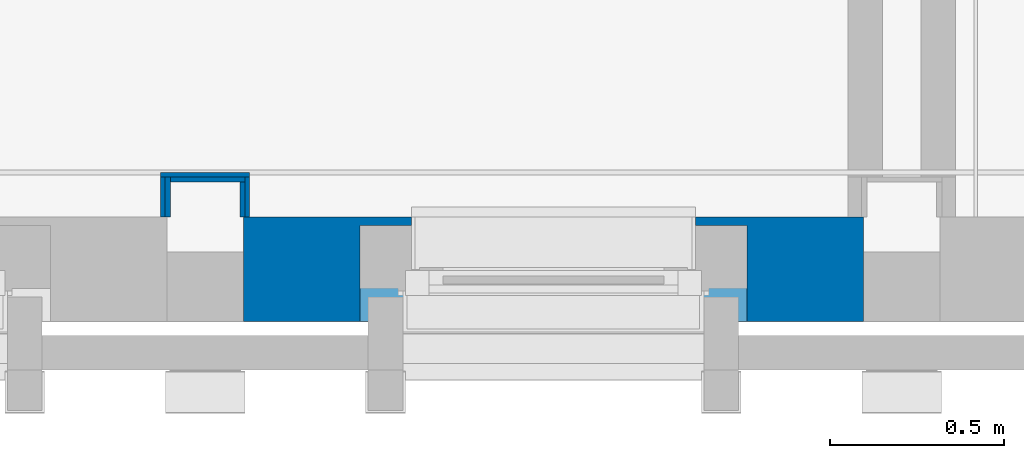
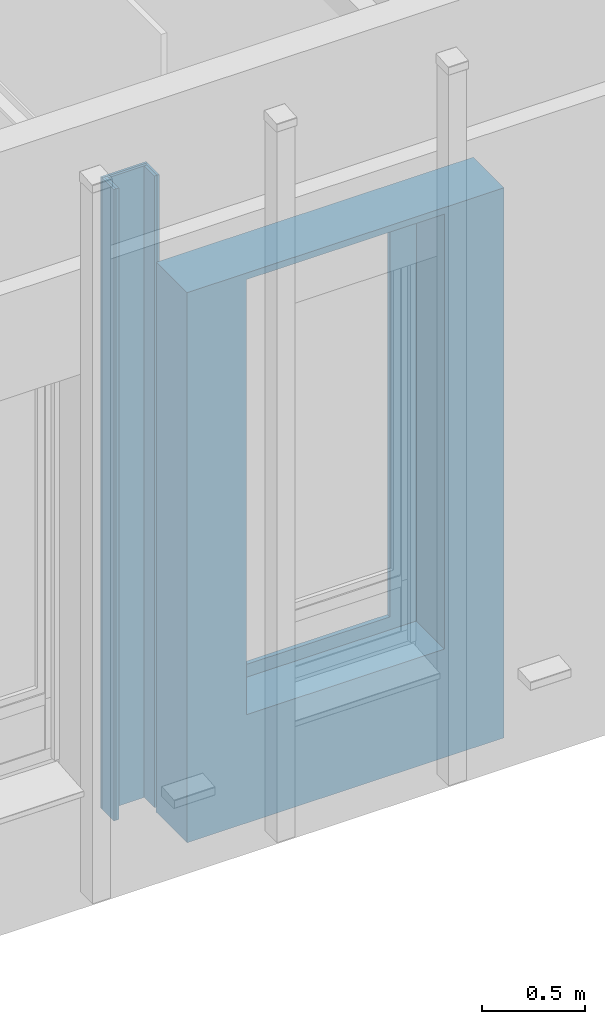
# One storey, part 30 of 118: 7 walls, 12 openings.
"""IFC2X3 building model written with IfcOpenShell, lengths in millimetres."""

from ifc_helpers import new_model, entity, si_unit, converted_unit, derived_unit, direction, frame, frame_2d, origin, place, context, subcontext, project, spatial, rectangle, extrude, faceted_brep, material, layer, layer_set, layer_usage, type_object, element, save


model = new_model("IFC2X3")

# Units and contexts
model_context = context("Model", 3, precision=0.01, world=origin(), true_north=direction((6.123031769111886e-17, 1.0)))
plan_context = context("Plan", 3, precision=0.01, world=origin(), true_north=direction((6.123031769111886e-17, 1.0)))
body_context = subcontext(model_context, "Body", "Model", "MODEL_VIEW")
ifc_project = project(units=[si_unit("LENGTHUNIT", "METRE", prefix="MILLI"), si_unit("AREAUNIT", "SQUARE_METRE"), si_unit("VOLUMEUNIT", "CUBIC_METRE"), converted_unit("PLANEANGLEUNIT", "DEGREE", entity("IfcRatioMeasure", 0.017453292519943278), si_unit("PLANEANGLEUNIT", "RADIAN"), dimensions=[0, 0, 0, 0, 0, 0, 0]), si_unit("MASSUNIT", "GRAM", prefix="KILO"), derived_unit("MASSDENSITYUNIT", [(si_unit("MASSUNIT", "GRAM", prefix="KILO"), 1), (si_unit("LENGTHUNIT", "METRE"), -3)]), derived_unit("IONCONCENTRATIONUNIT", [(si_unit("MASSUNIT", "GRAM", prefix="KILO"), 1), (si_unit("LENGTHUNIT", "METRE"), -3)]), derived_unit("MOMENTOFINERTIAUNIT", [(si_unit("LENGTHUNIT", "METRE"), 4)]), si_unit("TIMEUNIT", "SECOND"), si_unit("FREQUENCYUNIT", "HERTZ"), si_unit("THERMODYNAMICTEMPERATUREUNIT", "DEGREE_CELSIUS"), derived_unit("THERMALTRANSMITTANCEUNIT", [(si_unit("MASSUNIT", "GRAM", prefix="KILO"), 1), (si_unit("THERMODYNAMICTEMPERATUREUNIT", "KELVIN"), -1), (si_unit("TIMEUNIT", "SECOND"), -3)]), derived_unit("THERMALCONDUCTANCEUNIT", [(si_unit("MASSUNIT", "GRAM", prefix="KILO"), 1), (si_unit("THERMODYNAMICTEMPERATUREUNIT", "KELVIN"), -1), (si_unit("TIMEUNIT", "SECOND"), -3), (si_unit("LENGTHUNIT", "METRE"), 1)]), derived_unit("VOLUMETRICFLOWRATEUNIT", [(si_unit("LENGTHUNIT", "METRE"), 3), (si_unit("TIMEUNIT", "SECOND"), -1)]), derived_unit("MASSFLOWRATEUNIT", [(si_unit("MASSUNIT", "GRAM", prefix="KILO"), 1), (si_unit("TIMEUNIT", "SECOND"), -1)]), derived_unit("ROTATIONALFREQUENCYUNIT", [(si_unit("TIMEUNIT", "SECOND"), -1)]), si_unit("ELECTRICCURRENTUNIT", "AMPERE"), si_unit("ELECTRICVOLTAGEUNIT", "VOLT"), si_unit("POWERUNIT", "WATT"), si_unit("FORCEUNIT", "NEWTON", prefix="KILO"), si_unit("ILLUMINANCEUNIT", "LUX"), si_unit("LUMINOUSFLUXUNIT", "LUMEN"), si_unit("LUMINOUSINTENSITYUNIT", "CANDELA"), derived_unit("USERDEFINED", [(si_unit("MASSUNIT", "GRAM", prefix="KILO"), -1), (si_unit("LENGTHUNIT", "METRE"), -2), (si_unit("TIMEUNIT", "SECOND"), 3), (si_unit("LUMINOUSFLUXUNIT", "LUMEN"), 1)]), derived_unit("USERDEFINED", [(si_unit("MASSUNIT", "GRAM", prefix="KILO"), 1), (si_unit("TIMEUNIT", "SECOND"), -3), (si_unit("LENGTHUNIT", "METRE"), 3), (si_unit("ELECTRICCURRENTUNIT", "AMPERE"), -2)]), derived_unit("SOUNDPOWERUNIT", [(si_unit("MASSUNIT", "GRAM", prefix="KILO"), 1), (si_unit("TIMEUNIT", "SECOND"), -3), (si_unit("LENGTHUNIT", "METRE"), 2)]), derived_unit("SOUNDPRESSUREUNIT", [(si_unit("MASSUNIT", "GRAM", prefix="KILO"), 1), (si_unit("LENGTHUNIT", "METRE"), -1), (si_unit("TIMEUNIT", "SECOND"), -2)]), derived_unit("LINEARVELOCITYUNIT", [(si_unit("LENGTHUNIT", "METRE"), 1), (si_unit("TIMEUNIT", "SECOND"), -1)]), si_unit("PRESSUREUNIT", "PASCAL"), derived_unit("USERDEFINED", [(si_unit("MASSUNIT", "GRAM", prefix="KILO"), 1), (si_unit("LENGTHUNIT", "METRE"), -2), (si_unit("TIMEUNIT", "SECOND"), -2)]), derived_unit("LINEARFORCEUNIT", [(si_unit("MASSUNIT", "GRAM", prefix="KILO"), 1), (si_unit("TIMEUNIT", "SECOND"), -2)]), derived_unit("PLANARFORCEUNIT", [(si_unit("MASSUNIT", "GRAM", prefix="KILO"), 1), (si_unit("LENGTHUNIT", "METRE"), -1), (si_unit("TIMEUNIT", "SECOND"), -2)]), derived_unit("SPECIFICHEATCAPACITYUNIT", [(si_unit("THERMODYNAMICTEMPERATUREUNIT", "KELVIN"), -1), (si_unit("LENGTHUNIT", "METRE"), 2), (si_unit("TIMEUNIT", "SECOND"), -2)]), derived_unit("HEATINGVALUEUNIT", [(si_unit("LENGTHUNIT", "METRE"), 2), (si_unit("TIMEUNIT", "SECOND"), -2)]), derived_unit("VAPORPERMEABILITYUNIT", [(si_unit("LENGTHUNIT", "METRE"), -1), (si_unit("TIMEUNIT", "SECOND"), 1)]), derived_unit("DYNAMICVISCOSITYUNIT", [(si_unit("MASSUNIT", "GRAM", prefix="KILO"), 1), (si_unit("TIMEUNIT", "SECOND"), -1), (si_unit("LENGTHUNIT", "METRE"), -1)]), derived_unit("THERMALEXPANSIONCOEFFICIENTUNIT", [(si_unit("THERMODYNAMICTEMPERATUREUNIT", "KELVIN"), -1)]), derived_unit("MODULUSOFELASTICITYUNIT", [(si_unit("MASSUNIT", "GRAM", prefix="KILO"), 1), (si_unit("LENGTHUNIT", "METRE"), -1), (si_unit("TIMEUNIT", "SECOND"), -2)]), derived_unit("ISOTHERMALMOISTURECAPACITYUNIT", [(si_unit("LENGTHUNIT", "METRE"), 3), (si_unit("MASSUNIT", "GRAM", prefix="KILO"), -1)]), derived_unit("MOISTUREDIFFUSIVITYUNIT", [(si_unit("TIMEUNIT", "SECOND"), -1), (si_unit("LENGTHUNIT", "METRE"), 2)])], contexts=[model_context, plan_context])

# Site, building, storey
site_placement = place(None, origin())
site = spatial("IfcSite", under=ifc_project, at=site_placement, Name="Locatie", CompositionType="ELEMENT")
building_placement = place(site_placement, origin())
building = spatial("IfcBuilding", under=site, at=building_placement, Name="Bouwwerk", CompositionType="ELEMENT")
storey_placement = place(building_placement, frame((0.0, 0.0, 7800.0)))
storey = spatial("IfcBuildingStorey", under=building, at=storey_placement, Name="02 tweede verdieping", CompositionType="ELEMENT", Elevation=7800.000000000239)

# Wall, openings
ifc_material_1 = material(Name="n7_isolatie_glaswol")
ifc_layer_1 = layer(ifc_material_1, 30.0)
ifc_layer_2 = layer(ifc_material_1, 245.0)
ifc_material_2 = material(Name="i4_multiplex")
ifc_layer_3 = layer(ifc_material_2, 12.0)
ifc_material_3 = material(Name="f7_gipsvezel")
ifc_layer_4 = layer(ifc_material_3, 13.000000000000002)
ifc_layer_set_1 = layer_set([ifc_layer_1, ifc_layer_2, ifc_layer_3, ifc_layer_4], Name="Basic Wall:NLRS_22_WA_HSB bispouw 30-245-12-13 glaswol_gen_ISR")
ifc_layer_usage_1 = layer_usage(ifc_layer_set_1, "AXIS2", "NEGATIVE", 150.0)
wall_type_1 = type_object("IfcWallType", Name="Basic Wall:NLRS_22_WA_HSB bispouw 30-245-12-13 glaswol_gen_ISR", PredefinedType="STANDARD", material=ifc_layer_set_1)
wall_1_placement = place(storey_placement, frame((24190.0, 9850.0, -30.0), z_axis=(0.0, 0.0, 1.0), x_axis=(-1.0, 0.0, 0.0)))
wall_1 = element("IfcWallStandardCase", 1, at=wall_1_placement, inside=storey, type_object=wall_type_1, material=ifc_layer_usage_1, Name="Basic Wall:NLRS_22_WA_HSB bispouw 30-245-12-13 glaswol_gen_ISR", ObjectType="Basic Wall:NLRS_22_WA_HSB bispouw 30-245-12-13 glaswol_gen_ISR", context=body_context, shape_type="SweptSolid", body=[
    extrude(rectangle(XDim=1779.9999999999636, YDim=300.0000000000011, at=frame_2d((889.9999999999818, 0.0), x_axis=(-1.0, 0.0))), origin(), (0.0, 0.0, 1.0), 3265.9999999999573),
])
opening_1_placement = place(wall_1_placement, frame((-2554.0, 290.0, 633.0)))
element("IfcOpeningElement", 2, at=opening_1_placement, cuts=wall_1, Name="Basic Wall:NLRS_22_WA_HSB bispouw 30-245-12-13 glaswol_gen_ISR", ObjectType="Opening", context=body_context, shape_type="Brep", body=[
    faceted_brep([(-24.0, -100.0, 2472.0), (-103.0, -100.0, 2472.0), (-103.0, -100.0, 42.0), (-1009.0, -100.0, 42.0), (-1009.0, -100.0, 2472.0), (-1088.0, -100.0, 2472.0), (-1088.0, -100.0, 0.0), (-24.0, -100.0, 0.0), (-1088.0, 0.0, 2472.0), (-24.0, 0.0, 2472.0), (-24.0, 0.0, 0.0), (-1088.0, 0.0, 0.0), (-1112.0, -415.0, 2594.0), (-1112.0, -415.0, 11.0), (0.0, -415.0, 11.0), (0.0, -415.0, 2594.0), (-964.0, -415.0, 2443.0), (-148.0, -415.0, 2443.0), (-148.0, -415.0, 87.0), (-964.0, -415.0, 87.0), (-1112.0, -140.0, 2594.0), (0.0, -140.0, 2594.0), (0.0, -140.0, 11.0), (-1112.0, -140.0, 11.0), (-1009.0, -140.0, 42.0), (-103.0, -140.0, 42.0), (-103.0, -140.0, 2508.0), (-1009.0, -140.0, 2508.0), (-103.0, -100.0, 2508.0), (-1009.0, -100.0, 2508.0), (-964.0, -615.0, 2443.0), (-964.0, -615.0, 87.0), (-148.0, -615.0, 87.0), (-148.0, -615.0, 2443.0)], [[[0, 1, 2, 3, 4, 5, 6, 7]], [[8, 9, 10, 11]], [[5, 8, 11, 6]], [[6, 11, 10, 7]], [[7, 10, 9, 0]], [[8, 5, 4, 1, 0, 9]], [[12, 13, 14, 15], [16, 17, 18, 19]], [[20, 21, 22, 23], [24, 25, 26, 27]], [[12, 20, 23, 13]], [[13, 23, 22, 14]], [[14, 22, 21, 15]], [[15, 21, 20, 12]], [[28, 1, 4, 29]], [[24, 27, 29, 4, 3]], [[3, 2, 25, 24]], [[2, 1, 28, 26, 25]], [[29, 27, 26, 28]], [[30, 31, 32, 33]], [[30, 16, 19, 31]], [[31, 19, 18, 32]], [[32, 18, 17, 33]], [[33, 17, 16, 30]]]),
])
opening_2_placement = place(wall_1_placement, frame((-554.0, 290.0, 633.0)))
element("IfcOpeningElement", 3, at=opening_2_placement, cuts=wall_1, Name="Basic Wall:NLRS_22_WA_HSB bispouw 30-245-12-13 glaswol_gen_ISR", ObjectType="Opening", context=body_context, shape_type="Brep", body=[
    faceted_brep([(-24.0, -100.0, 2472.0), (-103.0, -100.0, 2472.0), (-103.0, -100.0, 42.0), (-1009.0, -100.0, 42.0), (-1009.0, -100.0, 2472.0), (-1088.0, -100.0, 2472.0), (-1088.0, -100.0, 0.0), (-24.0, -100.0, 0.0), (-1088.0, 0.0, 2472.0), (-24.0, 0.0, 2472.0), (-24.0, 0.0, 0.0), (-1088.0, 0.0, 0.0), (-1112.0, -415.0, 2594.0), (-1112.0, -415.0, 11.0), (0.0, -415.0, 11.0), (0.0, -415.0, 2594.0), (-964.0, -415.0, 2443.0), (-148.0, -415.0, 2443.0), (-148.0, -415.0, 87.0), (-964.0, -415.0, 87.0), (-1112.0, -140.0, 2594.0), (0.0, -140.0, 2594.0), (0.0, -140.0, 11.0), (-1112.0, -140.0, 11.0), (-1009.0, -140.0, 42.0), (-103.0, -140.0, 42.0), (-103.0, -140.0, 2508.0), (-1009.0, -140.0, 2508.0), (-103.0, -100.0, 2508.0), (-1009.0, -100.0, 2508.0), (-964.0, -615.0, 2443.0), (-964.0, -615.0, 87.0), (-148.0, -615.0, 87.0), (-148.0, -615.0, 2443.0)], [[[0, 1, 2, 3, 4, 5, 6, 7]], [[8, 9, 10, 11]], [[5, 8, 11, 6]], [[6, 11, 10, 7]], [[7, 10, 9, 0]], [[8, 5, 4, 1, 0, 9]], [[12, 13, 14, 15], [16, 17, 18, 19]], [[20, 21, 22, 23], [24, 25, 26, 27]], [[12, 20, 23, 13]], [[13, 23, 22, 14]], [[14, 22, 21, 15]], [[15, 21, 20, 12]], [[28, 1, 4, 29]], [[24, 27, 29, 4, 3]], [[3, 2, 25, 24]], [[2, 1, 28, 26, 25]], [[29, 27, 26, 28]], [[30, 31, 32, 33]], [[30, 16, 19, 31]], [[31, 19, 18, 32]], [[32, 18, 17, 33]], [[33, 17, 16, 30]]]),
])
opening_3_placement = place(wall_1_placement, frame((-8554.0, 290.0, 633.0)))
element("IfcOpeningElement", 4, at=opening_3_placement, cuts=wall_1, Name="Basic Wall:NLRS_22_WA_HSB bispouw 30-245-12-13 glaswol_gen_ISR", ObjectType="Opening", context=body_context, shape_type="Brep", body=[
    faceted_brep([(-24.0, -100.0, 2472.0), (-103.0, -100.0, 2472.0), (-103.0, -100.0, 42.0), (-1009.0, -100.0, 42.0), (-1009.0, -100.0, 2472.0), (-1088.0, -100.0, 2472.0), (-1088.0, -100.0, 0.0), (-24.0, -100.0, 0.0), (-1088.0, 0.0, 2472.0), (-24.0, 0.0, 2472.0), (-24.0, 0.0, 0.0), (-1088.0, 0.0, 0.0), (-1112.0, -415.0, 2594.0), (-1112.0, -415.0, 11.0), (0.0, -415.0, 11.0), (0.0, -415.0, 2594.0), (-964.0, -415.0, 2443.0), (-148.0, -415.0, 2443.0), (-148.0, -415.0, 87.0), (-964.0, -415.0, 87.0), (-1112.0, -140.0, 2594.0), (0.0, -140.0, 2594.0), (0.0, -140.0, 11.0), (-1112.0, -140.0, 11.0), (-1009.0, -140.0, 42.0), (-103.0, -140.0, 42.0), (-103.0, -140.0, 2508.0), (-1009.0, -140.0, 2508.0), (-103.0, -100.0, 2508.0), (-1009.0, -100.0, 2508.0), (-964.0, -615.0, 2443.0), (-964.0, -615.0, 87.0), (-148.0, -615.0, 87.0), (-148.0, -615.0, 2443.0)], [[[0, 1, 2, 3, 4, 5, 6, 7]], [[8, 9, 10, 11]], [[5, 8, 11, 6]], [[6, 11, 10, 7]], [[7, 10, 9, 0]], [[8, 5, 4, 1, 0, 9]], [[12, 13, 14, 15], [16, 17, 18, 19]], [[20, 21, 22, 23], [24, 25, 26, 27]], [[12, 20, 23, 13]], [[13, 23, 22, 14]], [[14, 22, 21, 15]], [[15, 21, 20, 12]], [[28, 1, 4, 29]], [[24, 27, 29, 4, 3]], [[3, 2, 25, 24]], [[2, 1, 28, 26, 25]], [[29, 27, 26, 28]], [[30, 31, 32, 33]], [[30, 16, 19, 31]], [[31, 19, 18, 32]], [[32, 18, 17, 33]], [[33, 17, 16, 30]]]),
])
opening_4_placement = place(wall_1_placement, frame((-6554.0, 290.0, 633.0)))
element("IfcOpeningElement", 5, at=opening_4_placement, cuts=wall_1, Name="Basic Wall:NLRS_22_WA_HSB bispouw 30-245-12-13 glaswol_gen_ISR", ObjectType="Opening", context=body_context, shape_type="Brep", body=[
    faceted_brep([(-24.0, -100.0, 2472.0), (-103.0, -100.0, 2472.0), (-103.0, -100.0, 42.0), (-1009.0, -100.0, 42.0), (-1009.0, -100.0, 2472.0), (-1088.0, -100.0, 2472.0), (-1088.0, -100.0, 0.0), (-24.0, -100.0, 0.0), (-1088.0, 0.0, 2472.0), (-24.0, 0.0, 2472.0), (-24.0, 0.0, 0.0), (-1088.0, 0.0, 0.0), (-1112.0, -415.0, 2594.0), (-1112.0, -415.0, 11.0), (0.0, -415.0, 11.0), (0.0, -415.0, 2594.0), (-964.0, -415.0, 2443.0), (-148.0, -415.0, 2443.0), (-148.0, -415.0, 87.0), (-964.0, -415.0, 87.0), (-1112.0, -140.0, 2594.0), (0.0, -140.0, 2594.0), (0.0, -140.0, 11.0), (-1112.0, -140.0, 11.0), (-1009.0, -140.0, 42.0), (-103.0, -140.0, 42.0), (-103.0, -140.0, 2508.0), (-1009.0, -140.0, 2508.0), (-103.0, -100.0, 2508.0), (-1009.0, -100.0, 2508.0), (-964.0, -615.0, 2443.0), (-964.0, -615.0, 87.0), (-148.0, -615.0, 87.0), (-148.0, -615.0, 2443.0)], [[[0, 1, 2, 3, 4, 5, 6, 7]], [[8, 9, 10, 11]], [[5, 8, 11, 6]], [[6, 11, 10, 7]], [[7, 10, 9, 0]], [[8, 5, 4, 1, 0, 9]], [[12, 13, 14, 15], [16, 17, 18, 19]], [[20, 21, 22, 23], [24, 25, 26, 27]], [[12, 20, 23, 13]], [[13, 23, 22, 14]], [[14, 22, 21, 15]], [[15, 21, 20, 12]], [[28, 1, 4, 29]], [[24, 27, 29, 4, 3]], [[3, 2, 25, 24]], [[2, 1, 28, 26, 25]], [[29, 27, 26, 28]], [[30, 31, 32, 33]], [[30, 16, 19, 31]], [[31, 19, 18, 32]], [[32, 18, 17, 33]], [[33, 17, 16, 30]]]),
])
opening_5_placement = place(wall_1_placement, frame((-4554.0, 290.0, 633.0)))
element("IfcOpeningElement", 6, at=opening_5_placement, cuts=wall_1, Name="Basic Wall:NLRS_22_WA_HSB bispouw 30-245-12-13 glaswol_gen_ISR", ObjectType="Opening", context=body_context, shape_type="Brep", body=[
    faceted_brep([(-24.0, -100.0, 2472.0), (-103.0, -100.0, 2472.0), (-103.0, -100.0, 42.0), (-1009.0, -100.0, 42.0), (-1009.0, -100.0, 2472.0), (-1088.0, -100.0, 2472.0), (-1088.0, -100.0, 0.0), (-24.0, -100.0, 0.0), (-1088.0, 0.0, 2472.0), (-24.0, 0.0, 2472.0), (-24.0, 0.0, 0.0), (-1088.0, 0.0, 0.0), (-1112.0, -415.0, 2594.0), (-1112.0, -415.0, 11.0), (0.0, -415.0, 11.0), (0.0, -415.0, 2594.0), (-964.0, -415.0, 2443.0), (-148.0, -415.0, 2443.0), (-148.0, -415.0, 87.0), (-964.0, -415.0, 87.0), (-1112.0, -140.0, 2594.0), (0.0, -140.0, 2594.0), (0.0, -140.0, 11.0), (-1112.0, -140.0, 11.0), (-1009.0, -140.0, 42.0), (-103.0, -140.0, 42.0), (-103.0, -140.0, 2508.0), (-1009.0, -140.0, 2508.0), (-103.0, -100.0, 2508.0), (-1009.0, -100.0, 2508.0), (-964.0, -615.0, 2443.0), (-964.0, -615.0, 87.0), (-148.0, -615.0, 87.0), (-148.0, -615.0, 2443.0)], [[[0, 1, 2, 3, 4, 5, 6, 7]], [[8, 9, 10, 11]], [[5, 8, 11, 6]], [[6, 11, 10, 7]], [[7, 10, 9, 0]], [[8, 5, 4, 1, 0, 9]], [[12, 13, 14, 15], [16, 17, 18, 19]], [[20, 21, 22, 23], [24, 25, 26, 27]], [[12, 20, 23, 13]], [[13, 23, 22, 14]], [[14, 22, 21, 15]], [[15, 21, 20, 12]], [[28, 1, 4, 29]], [[24, 27, 29, 4, 3]], [[3, 2, 25, 24]], [[2, 1, 28, 26, 25]], [[29, 27, 26, 28]], [[30, 31, 32, 33]], [[30, 16, 19, 31]], [[31, 19, 18, 32]], [[32, 18, 17, 33]], [[33, 17, 16, 30]]]),
])
opening_6_placement = place(wall_1_placement, frame((3446.0, 290.0, 633.0)))
element("IfcOpeningElement", 7, at=opening_6_placement, cuts=wall_1, Name="Basic Wall:NLRS_22_WA_HSB bispouw 30-245-12-13 glaswol_gen_ISR", ObjectType="Opening", context=body_context, shape_type="Brep", body=[
    faceted_brep([(-24.0, -100.0, 2472.0), (-103.0, -100.0, 2472.0), (-103.0, -100.0, 42.0), (-1009.0, -100.0, 42.0), (-1009.0, -100.0, 2472.0), (-1088.0, -100.0, 2472.0), (-1088.0, -100.0, 0.0), (-24.0, -100.0, 0.0), (-1088.0, 0.0, 2472.0), (-24.0, 0.0, 2472.0), (-24.0, 0.0, 0.0), (-1088.0, 0.0, 0.0), (-1112.0, -415.0, 2594.0), (-1112.0, -415.0, 11.0), (0.0, -415.0, 11.0), (0.0, -415.0, 2594.0), (-964.0, -415.0, 2443.0), (-148.0, -415.0, 2443.0), (-148.0, -415.0, 87.0), (-964.0, -415.0, 87.0), (-1112.0, -140.0, 2594.0), (0.0, -140.0, 2594.0), (0.0, -140.0, 11.0), (-1112.0, -140.0, 11.0), (-1009.0, -140.0, 42.0), (-103.0, -140.0, 42.0), (-103.0, -140.0, 2508.0), (-1009.0, -140.0, 2508.0), (-103.0, -100.0, 2508.0), (-1009.0, -100.0, 2508.0), (-964.0, -615.0, 2443.0), (-964.0, -615.0, 87.0), (-148.0, -615.0, 87.0), (-148.0, -615.0, 2443.0)], [[[0, 1, 2, 3, 4, 5, 6, 7]], [[8, 9, 10, 11]], [[5, 8, 11, 6]], [[6, 11, 10, 7]], [[7, 10, 9, 0]], [[8, 5, 4, 1, 0, 9]], [[12, 13, 14, 15], [16, 17, 18, 19]], [[20, 21, 22, 23], [24, 25, 26, 27]], [[12, 20, 23, 13]], [[13, 23, 22, 14]], [[14, 22, 21, 15]], [[15, 21, 20, 12]], [[28, 1, 4, 29]], [[24, 27, 29, 4, 3]], [[3, 2, 25, 24]], [[2, 1, 28, 26, 25]], [[29, 27, 26, 28]], [[30, 31, 32, 33]], [[30, 16, 19, 31]], [[31, 19, 18, 32]], [[32, 18, 17, 33]], [[33, 17, 16, 30]]]),
])
opening_7_placement = place(wall_1_placement, frame((5446.0, 290.0, 633.0)))
element("IfcOpeningElement", 8, at=opening_7_placement, cuts=wall_1, Name="Basic Wall:NLRS_22_WA_HSB bispouw 30-245-12-13 glaswol_gen_ISR", ObjectType="Opening", context=body_context, shape_type="Brep", body=[
    faceted_brep([(-24.0, -100.0, 2472.0), (-103.0, -100.0, 2472.0), (-103.0, -100.0, 42.0), (-1009.0, -100.0, 42.0), (-1009.0, -100.0, 2472.0), (-1088.0, -100.0, 2472.0), (-1088.0, -100.0, 0.0), (-24.0, -100.0, 0.0), (-1088.0, 0.0, 2472.0), (-24.0, 0.0, 2472.0), (-24.0, 0.0, 0.0), (-1088.0, 0.0, 0.0), (-1112.0, -415.0, 2594.0), (-1112.0, -415.0, 11.0), (0.0, -415.0, 11.0), (0.0, -415.0, 2594.0), (-964.0, -415.0, 2443.0), (-148.0, -415.0, 2443.0), (-148.0, -415.0, 87.0), (-964.0, -415.0, 87.0), (-1112.0, -140.0, 2594.0), (0.0, -140.0, 2594.0), (0.0, -140.0, 11.0), (-1112.0, -140.0, 11.0), (-1009.0, -140.0, 42.0), (-103.0, -140.0, 42.0), (-103.0, -140.0, 2508.0), (-1009.0, -140.0, 2508.0), (-103.0, -100.0, 2508.0), (-1009.0, -100.0, 2508.0), (-964.0, -615.0, 2443.0), (-964.0, -615.0, 87.0), (-148.0, -615.0, 87.0), (-148.0, -615.0, 2443.0)], [[[0, 1, 2, 3, 4, 5, 6, 7]], [[8, 9, 10, 11]], [[5, 8, 11, 6]], [[6, 11, 10, 7]], [[7, 10, 9, 0]], [[8, 5, 4, 1, 0, 9]], [[12, 13, 14, 15], [16, 17, 18, 19]], [[20, 21, 22, 23], [24, 25, 26, 27]], [[12, 20, 23, 13]], [[13, 23, 22, 14]], [[14, 22, 21, 15]], [[15, 21, 20, 12]], [[28, 1, 4, 29]], [[24, 27, 29, 4, 3]], [[3, 2, 25, 24]], [[2, 1, 28, 26, 25]], [[29, 27, 26, 28]], [[30, 31, 32, 33]], [[30, 16, 19, 31]], [[31, 19, 18, 32]], [[32, 18, 17, 33]], [[33, 17, 16, 30]]]),
])
opening_8_placement = place(wall_1_placement, frame((7446.0, 290.0, 633.0)))
element("IfcOpeningElement", 9, at=opening_8_placement, cuts=wall_1, Name="Basic Wall:NLRS_22_WA_HSB bispouw 30-245-12-13 glaswol_gen_ISR", ObjectType="Opening", context=body_context, shape_type="Brep", body=[
    faceted_brep([(-24.0, -100.0, 2472.0), (-103.0, -100.0, 2472.0), (-103.0, -100.0, 42.0), (-1009.0, -100.0, 42.0), (-1009.0, -100.0, 2472.0), (-1088.0, -100.0, 2472.0), (-1088.0, -100.0, 0.0), (-24.0, -100.0, 0.0), (-1088.0, 0.0, 2472.0), (-24.0, 0.0, 2472.0), (-24.0, 0.0, 0.0), (-1088.0, 0.0, 0.0), (-1112.0, -415.0, 2594.0), (-1112.0, -415.0, 11.0), (0.0, -415.0, 11.0), (0.0, -415.0, 2594.0), (-964.0, -415.0, 2443.0), (-148.0, -415.0, 2443.0), (-148.0, -415.0, 87.0), (-964.0, -415.0, 87.0), (-1112.0, -140.0, 2594.0), (0.0, -140.0, 2594.0), (0.0, -140.0, 11.0), (-1112.0, -140.0, 11.0), (-1009.0, -140.0, 42.0), (-103.0, -140.0, 42.0), (-103.0, -140.0, 2508.0), (-1009.0, -140.0, 2508.0), (-103.0, -100.0, 2508.0), (-1009.0, -100.0, 2508.0), (-964.0, -615.0, 2443.0), (-964.0, -615.0, 87.0), (-148.0, -615.0, 87.0), (-148.0, -615.0, 2443.0)], [[[0, 1, 2, 3, 4, 5, 6, 7]], [[8, 9, 10, 11]], [[5, 8, 11, 6]], [[6, 11, 10, 7]], [[7, 10, 9, 0]], [[8, 5, 4, 1, 0, 9]], [[12, 13, 14, 15], [16, 17, 18, 19]], [[20, 21, 22, 23], [24, 25, 26, 27]], [[12, 20, 23, 13]], [[13, 23, 22, 14]], [[14, 22, 21, 15]], [[15, 21, 20, 12]], [[28, 1, 4, 29]], [[24, 27, 29, 4, 3]], [[3, 2, 25, 24]], [[2, 1, 28, 26, 25]], [[29, 27, 26, 28]], [[30, 31, 32, 33]], [[30, 16, 19, 31]], [[31, 19, 18, 32]], [[32, 18, 17, 33]], [[33, 17, 16, 30]]]),
])
opening_9_placement = place(wall_1_placement, frame((9446.0, 290.0, 633.0)))
element("IfcOpeningElement", 10, at=opening_9_placement, cuts=wall_1, Name="Basic Wall:NLRS_22_WA_HSB bispouw 30-245-12-13 glaswol_gen_ISR", ObjectType="Opening", context=body_context, shape_type="Brep", body=[
    faceted_brep([(-24.0, -100.0, 2472.0), (-103.0, -100.0, 2472.0), (-103.0, -100.0, 42.0), (-1009.0, -100.0, 42.0), (-1009.0, -100.0, 2472.0), (-1088.0, -100.0, 2472.0), (-1088.0, -100.0, 0.0), (-24.0, -100.0, 0.0), (-1088.0, 0.0, 2472.0), (-24.0, 0.0, 2472.0), (-24.0, 0.0, 0.0), (-1088.0, 0.0, 0.0), (-1112.0, -415.0, 2594.0), (-1112.0, -415.0, 11.0), (0.0, -415.0, 11.0), (0.0, -415.0, 2594.0), (-964.0, -415.0, 2443.0), (-148.0, -415.0, 2443.0), (-148.0, -415.0, 87.0), (-964.0, -415.0, 87.0), (-1112.0, -140.0, 2594.0), (0.0, -140.0, 2594.0), (0.0, -140.0, 11.0), (-1112.0, -140.0, 11.0), (-1009.0, -140.0, 42.0), (-103.0, -140.0, 42.0), (-103.0, -140.0, 2508.0), (-1009.0, -140.0, 2508.0), (-103.0, -100.0, 2508.0), (-1009.0, -100.0, 2508.0), (-964.0, -615.0, 2443.0), (-964.0, -615.0, 87.0), (-148.0, -615.0, 87.0), (-148.0, -615.0, 2443.0)], [[[0, 1, 2, 3, 4, 5, 6, 7]], [[8, 9, 10, 11]], [[5, 8, 11, 6]], [[6, 11, 10, 7]], [[7, 10, 9, 0]], [[8, 5, 4, 1, 0, 9]], [[12, 13, 14, 15], [16, 17, 18, 19]], [[20, 21, 22, 23], [24, 25, 26, 27]], [[12, 20, 23, 13]], [[13, 23, 22, 14]], [[14, 22, 21, 15]], [[15, 21, 20, 12]], [[28, 1, 4, 29]], [[24, 27, 29, 4, 3]], [[3, 2, 25, 24]], [[2, 1, 28, 26, 25]], [[29, 27, 26, 28]], [[30, 31, 32, 33]], [[30, 16, 19, 31]], [[31, 19, 18, 32]], [[32, 18, 17, 33]], [[33, 17, 16, 30]]]),
])
opening_10_placement = place(wall_1_placement, frame((11446.0, 290.0, 633.0)))
element("IfcOpeningElement", 11, at=opening_10_placement, cuts=wall_1, Name="Basic Wall:NLRS_22_WA_HSB bispouw 30-245-12-13 glaswol_gen_ISR", ObjectType="Opening", context=body_context, shape_type="Brep", body=[
    faceted_brep([(-24.0, -100.0, 2472.0), (-103.0, -100.0, 2472.0), (-103.0, -100.0, 42.0), (-1009.0, -100.0, 42.0), (-1009.0, -100.0, 2472.0), (-1088.0, -100.0, 2472.0), (-1088.0, -100.0, 0.0), (-24.0, -100.0, 0.0), (-1088.0, 0.0, 2472.0), (-24.0, 0.0, 2472.0), (-24.0, 0.0, 0.0), (-1088.0, 0.0, 0.0), (-1112.0, -415.0, 2594.0), (-1112.0, -415.0, 11.0), (0.0, -415.0, 11.0), (0.0, -415.0, 2594.0), (-964.0, -415.0, 2443.0), (-148.0, -415.0, 2443.0), (-148.0, -415.0, 87.0), (-964.0, -415.0, 87.0), (-1112.0, -140.0, 2594.0), (0.0, -140.0, 2594.0), (0.0, -140.0, 11.0), (-1112.0, -140.0, 11.0), (-1009.0, -140.0, 42.0), (-103.0, -140.0, 42.0), (-103.0, -140.0, 2508.0), (-1009.0, -140.0, 2508.0), (-103.0, -100.0, 2508.0), (-1009.0, -100.0, 2508.0), (-964.0, -615.0, 2443.0), (-964.0, -615.0, 87.0), (-148.0, -615.0, 87.0), (-148.0, -615.0, 2443.0)], [[[0, 1, 2, 3, 4, 5, 6, 7]], [[8, 9, 10, 11]], [[5, 8, 11, 6]], [[6, 11, 10, 7]], [[7, 10, 9, 0]], [[8, 5, 4, 1, 0, 9]], [[12, 13, 14, 15], [16, 17, 18, 19]], [[20, 21, 22, 23], [24, 25, 26, 27]], [[12, 20, 23, 13]], [[13, 23, 22, 14]], [[14, 22, 21, 15]], [[15, 21, 20, 12]], [[28, 1, 4, 29]], [[24, 27, 29, 4, 3]], [[3, 2, 25, 24]], [[2, 1, 28, 26, 25]], [[29, 27, 26, 28]], [[30, 31, 32, 33]], [[30, 16, 19, 31]], [[31, 19, 18, 32]], [[32, 18, 17, 33]], [[33, 17, 16, 30]]]),
])
opening_11_placement = place(wall_1_placement, frame((13446.0, 290.0, 633.0)))
element("IfcOpeningElement", 12, at=opening_11_placement, cuts=wall_1, Name="Basic Wall:NLRS_22_WA_HSB bispouw 30-245-12-13 glaswol_gen_ISR", ObjectType="Opening", context=body_context, shape_type="Brep", body=[
    faceted_brep([(-24.0, -100.0, 2472.0), (-103.0, -100.0, 2472.0), (-103.0, -100.0, 42.0), (-1009.0, -100.0, 42.0), (-1009.0, -100.0, 2472.0), (-1088.0, -100.0, 2472.0), (-1088.0, -100.0, 0.0), (-24.0, -100.0, 0.0), (-1088.0, 0.0, 2472.0), (-24.0, 0.0, 2472.0), (-24.0, 0.0, 0.0), (-1088.0, 0.0, 0.0), (-1112.0, -415.0, 2594.0), (-1112.0, -415.0, 11.0), (0.0, -415.0, 11.0), (0.0, -415.0, 2594.0), (-964.0, -415.0, 2443.0), (-148.0, -415.0, 2443.0), (-148.0, -415.0, 87.0), (-964.0, -415.0, 87.0), (-1112.0, -140.0, 2594.0), (0.0, -140.0, 2594.0), (0.0, -140.0, 11.0), (-1112.0, -140.0, 11.0), (-1009.0, -140.0, 42.0), (-103.0, -140.0, 42.0), (-103.0, -140.0, 2508.0), (-1009.0, -140.0, 2508.0), (-103.0, -100.0, 2508.0), (-1009.0, -100.0, 2508.0), (-964.0, -615.0, 2443.0), (-964.0, -615.0, 87.0), (-148.0, -615.0, 87.0), (-148.0, -615.0, 2443.0)], [[[0, 1, 2, 3, 4, 5, 6, 7]], [[8, 9, 10, 11]], [[5, 8, 11, 6]], [[6, 11, 10, 7]], [[7, 10, 9, 0]], [[8, 5, 4, 1, 0, 9]], [[12, 13, 14, 15], [16, 17, 18, 19]], [[20, 21, 22, 23], [24, 25, 26, 27]], [[12, 20, 23, 13]], [[13, 23, 22, 14]], [[14, 22, 21, 15]], [[15, 21, 20, 12]], [[28, 1, 4, 29]], [[24, 27, 29, 4, 3]], [[3, 2, 25, 24]], [[2, 1, 28, 26, 25]], [[29, 27, 26, 28]], [[30, 31, 32, 33]], [[30, 16, 19, 31]], [[31, 19, 18, 32]], [[32, 18, 17, 33]], [[33, 17, 16, 30]]]),
])
opening_12_placement = place(wall_1_placement, frame((1446.0, 290.0, 633.0), z_axis=(0.0, 0.0, 1.0), x_axis=(-1.0, 0.0, 0.0)))
element("IfcOpeningElement", 13, at=opening_12_placement, cuts=wall_1, Name="Basic Wall:NLRS_22_WA_HSB bispouw 30-245-12-13 glaswol_gen_ISR", ObjectType="Opening", context=body_context, shape_type="Brep", body=[
    faceted_brep([(24.0, 100.0, 2472.0), (103.0, 100.0, 2472.0), (103.0, 100.0, 42.0), (1009.0, 100.0, 42.0), (1009.0, 100.0, 2472.0), (1088.0, 100.0, 2472.0), (1088.0, 100.0, 0.0), (24.0, 100.0, 0.0), (1088.0, 0.0, 2472.0), (24.0, 0.0, 2472.0), (24.0, 0.0, 0.0), (1088.0, 0.0, 0.0), (1112.0, 415.0, 2594.0), (1112.0, 415.0, 11.0), (0.0, 415.0, 11.0), (0.0, 415.0, 2594.0), (964.0, 415.0, 2443.0), (148.0, 415.0, 2443.0), (148.0, 415.0, 87.0), (964.0, 415.0, 87.0), (1112.0, 140.0, 2594.0), (0.0, 140.0, 2594.0), (0.0, 140.0, 11.0), (1112.0, 140.0, 11.0), (1009.0, 140.0, 42.0), (103.0, 140.0, 42.0), (103.0, 140.0, 2508.0), (1009.0, 140.0, 2508.0), (103.0, 100.0, 2508.0), (1009.0, 100.0, 2508.0), (964.0, 615.0, 2443.0), (964.0, 615.0, 87.0), (148.0, 615.0, 87.0), (148.0, 615.0, 2443.0)], [[[0, 1, 2, 3, 4, 5, 6, 7]], [[8, 9, 10, 11]], [[5, 8, 11, 6]], [[6, 11, 10, 7]], [[7, 10, 9, 0]], [[8, 5, 4, 1, 0, 9]], [[12, 13, 14, 15], [16, 17, 18, 19]], [[20, 21, 22, 23], [24, 25, 26, 27]], [[12, 20, 23, 13]], [[13, 23, 22, 14]], [[14, 22, 21, 15]], [[15, 21, 20, 12]], [[28, 1, 4, 29]], [[24, 27, 29, 4, 3]], [[3, 2, 25, 24]], [[2, 1, 28, 26, 25]], [[29, 27, 26, 28]], [[30, 31, 32, 33]], [[30, 16, 19, 31]], [[31, 19, 18, 32]], [[32, 18, 17, 33]], [[33, 17, 16, 30]]]),
])

# Walls
ifc_layer_5 = layer(ifc_material_3, 13.000000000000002)
ifc_layer_set_2 = layer_set([ifc_layer_5], Name="Basic Wall:NLRS_41_WA_gips 13_gen_ISR")
ifc_layer_usage_2 = layer_usage(ifc_layer_set_2, "AXIS2", "NEGATIVE", 6.500000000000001)
wall_type_2 = type_object("IfcWallType", Name="Basic Wall:NLRS_41_WA_gips 13_gen_ISR", PredefinedType="STANDARD", material=ifc_layer_set_2)
wall_2_placement = place(storey_placement, frame((22172.0, 10121.500000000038, 0.0)))
element("IfcWallStandardCase", 14, at=wall_2_placement, inside=storey, type_object=wall_type_2, material=ifc_layer_usage_2, Name="Basic Wall:NLRS_41_WA_gips 13_gen_ISR", ObjectType="Basic Wall:NLRS_41_WA_gips 13_gen_ISR", context=body_context, shape_type="SweptSolid", body=[
    extrude(rectangle(XDim=255.99999999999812, YDim=13.000000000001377, at=frame_2d((127.99999999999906, 0.0), x_axis=(-1.0, 0.0))), origin(), (0.0, 0.0, 1.0), 3750.000000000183),
])
wall_3_placement = place(storey_placement, frame((22421.499999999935, 10115.0, 0.0), z_axis=(0.0, 0.0, 1.0), x_axis=(0.0, -1.0, 0.0)))
element("IfcWallStandardCase", 15, at=wall_3_placement, inside=storey, type_object=wall_type_2, material=ifc_layer_usage_2, Name="Basic Wall:NLRS_41_WA_gips 13_gen_ISR", ObjectType="Basic Wall:NLRS_41_WA_gips 13_gen_ISR", context=body_context, shape_type="SweptSolid", body=[
    extrude(rectangle(XDim=115.00000000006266, YDim=12.999999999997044, at=frame_2d((57.50000000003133, 0.0), x_axis=(-1.0, 0.0))), origin(), (0.0, 0.0, 1.0), 3750.000000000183),
])
ifc_layer_usage_3 = layer_usage(ifc_layer_set_2, "AXIS2", "POSITIVE", -6.500000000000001)
wall_4_placement = place(storey_placement, frame((22178.499999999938, 10115.0, 0.0), z_axis=(0.0, 0.0, 1.0), x_axis=(0.0, -1.0, 0.0)))
element("IfcWallStandardCase", 16, at=wall_4_placement, inside=storey, type_object=wall_type_2, material=ifc_layer_usage_3, Name="Basic Wall:NLRS_41_WA_gips 13_gen_ISR", ObjectType="Basic Wall:NLRS_41_WA_gips 13_gen_ISR", context=body_context, shape_type="SweptSolid", body=[
    extrude(rectangle(XDim=115.00000000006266, YDim=12.999999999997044, at=frame_2d((57.50000000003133, 0.0), x_axis=(-1.0, 0.0))), origin(), (0.0, 0.0, 1.0), 3750.000000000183),
])
ifc_material_4 = material(Name="ISR_brandwerende beplating")
ifc_layer_6 = layer(ifc_material_4, 15.0)
ifc_layer_set_3 = layer_set([ifc_layer_6], Name="Basic Wall:NLRS_41_WA_brandwerende beplating 15_gen_ISR")
ifc_layer_usage_4 = layer_usage(ifc_layer_set_3, "AXIS2", "NEGATIVE", 7.5)
wall_type_3 = type_object("IfcWallType", Name="Basic Wall:NLRS_41_WA_brandwerende beplating 15_gen_ISR", PredefinedType="STANDARD", material=ifc_layer_set_3)
wall_5_placement = place(storey_placement, frame((22192.49999999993, 10000.0, 0.0), z_axis=(0.0, 0.0, 1.0), x_axis=(0.0, 1.0, 0.0)))
element("IfcWallStandardCase", 17, at=wall_5_placement, inside=storey, type_object=wall_type_3, material=ifc_layer_usage_4, Name="Basic Wall:NLRS_41_WA_brandwerende beplating 15_gen_ISR", ObjectType="Basic Wall:NLRS_41_WA_brandwerende beplating 15_gen_ISR", context=body_context, shape_type="SweptSolid", body=[
    extrude(rectangle(XDim=114.99999999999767, YDim=14.99999999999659, at=frame_2d((57.499999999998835, 3.3928415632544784e-13), x_axis=(-1.0, 0.0))), origin(), (0.0, 0.0, 1.0), 3750.000000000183),
])
wall_6_placement = place(storey_placement, frame((22200.0, 10107.500000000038, 0.0)))
element("IfcWallStandardCase", 18, at=wall_6_placement, inside=storey, type_object=wall_type_3, material=ifc_layer_usage_4, Name="Basic Wall:NLRS_41_WA_brandwerende beplating 15_gen_ISR", ObjectType="Basic Wall:NLRS_41_WA_brandwerende beplating 15_gen_ISR", context=body_context, shape_type="SweptSolid", body=[
    extrude(rectangle(XDim=214.99999999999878, YDim=15.000000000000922, at=frame_2d((107.49999999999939, -4.489741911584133e-13), x_axis=(-1.0, 0.0))), origin(), (0.0, 0.0, 1.0), 3750.000000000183),
])
wall_7_placement = place(storey_placement, frame((22407.499999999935, 10100.0, 0.0), z_axis=(0.0, 0.0, 1.0), x_axis=(0.0, -1.0, 0.0)))
element("IfcWallStandardCase", 19, at=wall_7_placement, inside=storey, type_object=wall_type_3, material=ifc_layer_usage_4, Name="Basic Wall:NLRS_41_WA_brandwerende beplating 15_gen_ISR", ObjectType="Basic Wall:NLRS_41_WA_brandwerende beplating 15_gen_ISR", context=body_context, shape_type="SweptSolid", body=[
    extrude(rectangle(XDim=99.99999999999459, YDim=14.99999999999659, at=frame_2d((49.99999999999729, 2.9531932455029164e-13), x_axis=(-1.0, 0.0))), origin(), (0.0, 0.0, 1.0), 3750.000000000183),
])

save(model, "model.ifc")
